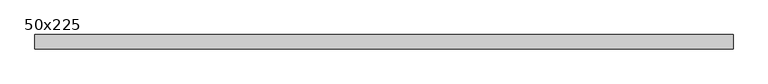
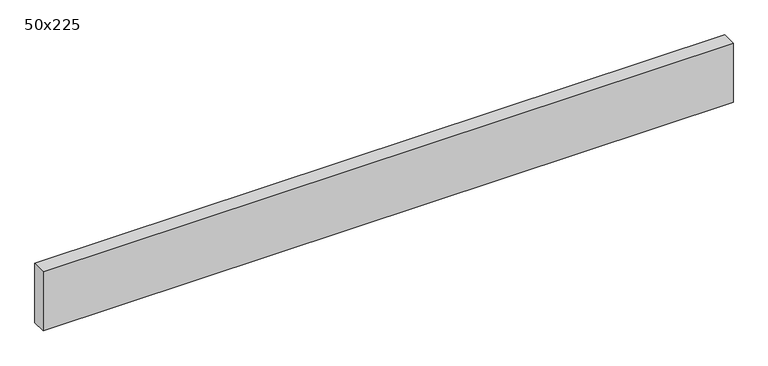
"""IFC4 building model written with IfcOpenShell, lengths in millimetres: beam geometry, Graded Timber : 50x225."""

from ifc_helpers import new_model, si_unit, frame, origin, place, context, project, spatial, polyline, outline, extrude, source, transform, mapped, element, save


def beam_50x225_04d71df1(model_context):
    return source(origin(), model_context, "Body", "SweptSolid", [
        extrude(outline(polyline([(1209.0, 25.0), (1209.0, -25.0), (-1209.0, -25.0), (-1209.0, 25.0), (1209.0, 25.0)])), frame((0.0, 0.0, -110.0), z_axis=(0.0, 0.0, 1.0), x_axis=(1.0, 0.0, 0.0)), (0.0, 0.0, 1.0), 220.0),
    ])


if __name__ == "__main__":
    model = new_model("IFC4")
    model_context = context("Model", 3, world=origin())
    ifc_project = project(units=[si_unit("LENGTHUNIT", "METRE", prefix="MILLI")], contexts=[model_context])
    site = spatial("IfcSite", under=ifc_project)
    building = spatial("IfcBuilding", under=site)
    placement = place(None, origin())
    beam_50x225_shape = beam_50x225_04d71df1(model_context)
    element("IfcBeam", 1, ObjectType="Graded Timber : 50x225", at=placement, inside=building, context=model_context, shape_type="MappedRepresentation", body=[
        mapped(beam_50x225_shape, transform((0.0, 0.0, 0.0), x_axis=(1.0, 0.0, 0.0), y_axis=(0.0, 1.0, 0.0), z_axis=(0.0, 0.0, 1.0))),
    ])
    save(model, "model.ifc")
